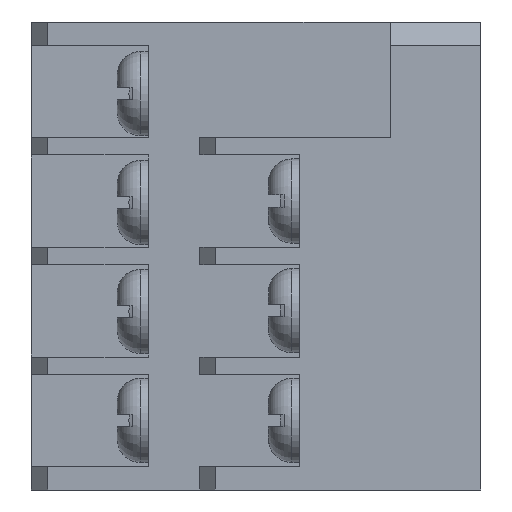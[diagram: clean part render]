
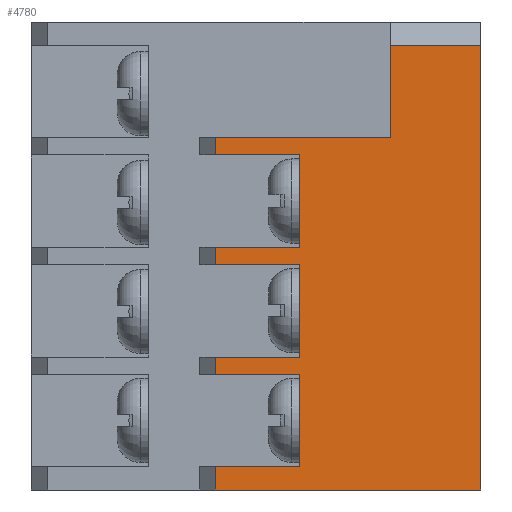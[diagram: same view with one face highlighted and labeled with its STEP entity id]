
A CAD part, left-side view. The second image highlights one B-rep face of the part: STEP entity #4780.
In plain terms, the highlighted planar face has unit normal (-1, 0, 0).
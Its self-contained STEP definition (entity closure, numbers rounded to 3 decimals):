
#23 = LINE ( 'NONE', #20725, #6328 ) ;
#133 = VECTOR ( 'NONE', #2885, 1000. ) ;
#676 = EDGE_CURVE ( 'NONE', #7374, #15625, #12981, .T. ) ;
#690 = CARTESIAN_POINT ( 'NONE',  ( -33.75, 10.6, 14.45 ) ) ;
#714 = CARTESIAN_POINT ( 'NONE',  ( -33.75, 17., 21.475 ) ) ;
#906 = DIRECTION ( 'NONE',  ( 0., 1., 0. ) ) ;
#1057 = LINE ( 'NONE', #13924, #17328 ) ;
#1320 = EDGE_LOOP ( 'NONE', ( #18510, #7648, #3717, #16716, #13855, #5805, #15302, #7697, #3683, #8871, #4548, #8831, #9867, #12850, #3366, #10427, #14857, #5818 ) ) ;
#1396 = CARTESIAN_POINT ( 'NONE',  ( -33.75, 10.6, 21.475 ) ) ;
#1546 = LINE ( 'NONE', #14799, #8365 ) ;
#1563 = VECTOR ( 'NONE', #13494, 1000. ) ;
#2198 = CARTESIAN_POINT ( 'NONE',  ( -33.75, 17., 7.425 ) ) ;
#2408 = CARTESIAN_POINT ( 'NONE',  ( -33.75, 17., 0. ) ) ;
#2484 = VERTEX_POINT ( 'NONE', #2198 ) ;
#2722 = DIRECTION ( 'NONE',  ( 0., 0., -1. ) ) ;
#2804 = LINE ( 'NONE', #8586, #9096 ) ;
#2885 = DIRECTION ( 'NONE',  ( 0., 1., 0. ) ) ;
#3101 = CARTESIAN_POINT ( 'NONE',  ( -33.75, 10.6, 22.575 ) ) ;
#3337 = CARTESIAN_POINT ( 'NONE',  ( -33.75, 17., 14.45 ) ) ;
#3366 = ORIENTED_EDGE ( 'NONE', *, *, #10335, .F. ) ;
#3551 = DIRECTION ( 'NONE',  ( 1., 0., 0. ) ) ;
#3571 = EDGE_CURVE ( 'NONE', #16414, #2484, #5389, .T. ) ;
#3683 = ORIENTED_EDGE ( 'NONE', *, *, #21758, .T. ) ;
#3717 = ORIENTED_EDGE ( 'NONE', *, *, #18665, .T. ) ;
#3776 = VERTEX_POINT ( 'NONE', #4979 ) ;
#4031 = CARTESIAN_POINT ( 'NONE',  ( -33.75, 11.6, 14.455 ) ) ;
#4074 = LINE ( 'NONE', #3101, #133 ) ;
#4548 = ORIENTED_EDGE ( 'NONE', *, *, #12519, .F. ) ;
#4683 = LINE ( 'NONE', #690, #17548 ) ;
#4754 = DIRECTION ( 'NONE',  ( 0., 0., 1. ) ) ;
#4780 = ADVANCED_FACE ( 'NONE', ( #8758 ), #15389, .F. ) ;
#4931 = VERTEX_POINT ( 'NONE', #12056 ) ;
#4971 = VERTEX_POINT ( 'NONE', #13682 ) ;
#4979 = CARTESIAN_POINT ( 'NONE',  ( -33.75, 17., 15.55 ) ) ;
#5083 = VERTEX_POINT ( 'NONE', #19079 ) ;
#5389 = LINE ( 'NONE', #21348, #6969 ) ;
#5392 = VERTEX_POINT ( 'NONE', #5758 ) ;
#5426 = VECTOR ( 'NONE', #4754, 1000. ) ;
#5743 = DIRECTION ( 'NONE',  ( 0., 0., 1. ) ) ;
#5758 = CARTESIAN_POINT ( 'NONE',  ( -33.75, 11.6, 15.55 ) ) ;
#5805 = ORIENTED_EDGE ( 'NONE', *, *, #18343, .F. ) ;
#5818 = ORIENTED_EDGE ( 'NONE', *, *, #6531, .T. ) ;
#5977 = CARTESIAN_POINT ( 'NONE',  ( -33.75, 17., 8.525 ) ) ;
#6006 = VERTEX_POINT ( 'NONE', #9400 ) ;
#6328 = VECTOR ( 'NONE', #7549, 1000. ) ;
#6456 = CARTESIAN_POINT ( 'NONE',  ( -33.75, 11.6, 7.425 ) ) ;
#6525 = DIRECTION ( 'NONE',  ( 0., 1., 0. ) ) ;
#6531 = EDGE_CURVE ( 'NONE', #15625, #4971, #2804, .T. ) ;
#6660 = EDGE_CURVE ( 'NONE', #19114, #7374, #23, .T. ) ;
#6796 = CARTESIAN_POINT ( 'NONE',  ( -33.75, 17., 0. ) ) ;
#6969 = VECTOR ( 'NONE', #2722, 1000. ) ;
#7014 = LINE ( 'NONE', #6456, #5426 ) ;
#7018 = EDGE_CURVE ( 'NONE', #10275, #12463, #11901, .T. ) ;
#7052 = CARTESIAN_POINT ( 'NONE',  ( -33.75, 0., 30. ) ) ;
#7374 = VERTEX_POINT ( 'NONE', #14536 ) ;
#7460 = VERTEX_POINT ( 'NONE', #11857 ) ;
#7549 = DIRECTION ( 'NONE',  ( 0., 1., 0. ) ) ;
#7648 = ORIENTED_EDGE ( 'NONE', *, *, #14704, .T. ) ;
#7697 = ORIENTED_EDGE ( 'NONE', *, *, #8930, .T. ) ;
#7909 = VERTEX_POINT ( 'NONE', #14806 ) ;
#7951 = DIRECTION ( 'NONE',  ( 0., 0., -1. ) ) ;
#8365 = VECTOR ( 'NONE', #7951, 1000. ) ;
#8471 = CARTESIAN_POINT ( 'NONE',  ( -33.75, 11.6, 1.5 ) ) ;
#8565 = LINE ( 'NONE', #9139, #9925 ) ;
#8586 = CARTESIAN_POINT ( 'NONE',  ( -33.75, 0., 0. ) ) ;
#8758 = FACE_OUTER_BOUND ( 'NONE', #1320, .T. ) ;
#8831 = ORIENTED_EDGE ( 'NONE', *, *, #20539, .T. ) ;
#8871 = ORIENTED_EDGE ( 'NONE', *, *, #14080, .F. ) ;
#8930 = EDGE_CURVE ( 'NONE', #5392, #3776, #18868, .T. ) ;
#9024 = DIRECTION ( 'NONE',  ( 0., 0., -1. ) ) ;
#9096 = VECTOR ( 'NONE', #17260, 1000. ) ;
#9139 = CARTESIAN_POINT ( 'NONE',  ( -33.75, 0., 28.5 ) ) ;
#9400 = CARTESIAN_POINT ( 'NONE',  ( -33.75, 11.6, 14.45 ) ) ;
#9485 = LINE ( 'NONE', #3337, #1563 ) ;
#9867 = ORIENTED_EDGE ( 'NONE', *, *, #3571, .T. ) ;
#9925 = VECTOR ( 'NONE', #906, 1000. ) ;
#10183 = DIRECTION ( 'NONE',  ( 0., 1., 0. ) ) ;
#10275 = VERTEX_POINT ( 'NONE', #16073 ) ;
#10335 = EDGE_CURVE ( 'NONE', #19114, #5083, #7014, .T. ) ;
#10337 = CARTESIAN_POINT ( 'NONE',  ( -33.75, 17., 21.475 ) ) ;
#10427 = ORIENTED_EDGE ( 'NONE', *, *, #6660, .T. ) ;
#10477 = CARTESIAN_POINT ( 'NONE',  ( -33.75, 11.6, 8.525 ) ) ;
#11137 = VECTOR ( 'NONE', #18857, 1000. ) ;
#11695 = VECTOR ( 'NONE', #15772, 1000. ) ;
#11857 = CARTESIAN_POINT ( 'NONE',  ( -33.75, 0., 28.5 ) ) ;
#11901 = LINE ( 'NONE', #10337, #20265 ) ;
#12056 = CARTESIAN_POINT ( 'NONE',  ( -33.75, 11.6, 21.475 ) ) ;
#12183 = EDGE_CURVE ( 'NONE', #14297, #10275, #4074, .T. ) ;
#12463 = VERTEX_POINT ( 'NONE', #714 ) ;
#12519 = EDGE_CURVE ( 'NONE', #17066, #6006, #16682, .T. ) ;
#12850 = ORIENTED_EDGE ( 'NONE', *, *, #13728, .F. ) ;
#12981 = LINE ( 'NONE', #2408, #15059 ) ;
#13429 = VECTOR ( 'NONE', #6525, 1000. ) ;
#13494 = DIRECTION ( 'NONE',  ( 0., 0., -1. ) ) ;
#13682 = CARTESIAN_POINT ( 'NONE',  ( -33.75, 0., 0. ) ) ;
#13728 = EDGE_CURVE ( 'NONE', #5083, #2484, #21483, .T. ) ;
#13855 = ORIENTED_EDGE ( 'NONE', *, *, #7018, .T. ) ;
#13924 = CARTESIAN_POINT ( 'NONE',  ( -33.75, 11.6, 21.485 ) ) ;
#14080 = EDGE_CURVE ( 'NONE', #6006, #7909, #4683, .T. ) ;
#14237 = LINE ( 'NONE', #1396, #13429 ) ;
#14281 = CARTESIAN_POINT ( 'NONE',  ( -33.75, 10.6, 7.425 ) ) ;
#14297 = VERTEX_POINT ( 'NONE', #21005 ) ;
#14496 = VECTOR ( 'NONE', #18764, 1000. ) ;
#14536 = CARTESIAN_POINT ( 'NONE',  ( -33.75, 17., 1.5 ) ) ;
#14704 = EDGE_CURVE ( 'NONE', #7460, #15093, #8565, .T. ) ;
#14799 = CARTESIAN_POINT ( 'NONE',  ( -33.75, 0., 30. ) ) ;
#14806 = CARTESIAN_POINT ( 'NONE',  ( -33.75, 17., 14.45 ) ) ;
#14857 = ORIENTED_EDGE ( 'NONE', *, *, #676, .T. ) ;
#14968 = VECTOR ( 'NONE', #10183, 1000. ) ;
#15059 = VECTOR ( 'NONE', #9024, 1000. ) ;
#15093 = VERTEX_POINT ( 'NONE', #18502 ) ;
#15169 = DIRECTION ( 'NONE',  ( 0., 0., -1. ) ) ;
#15302 = ORIENTED_EDGE ( 'NONE', *, *, #19227, .F. ) ;
#15389 = PLANE ( 'NONE',  #16119 ) ;
#15625 = VERTEX_POINT ( 'NONE', #6796 ) ;
#15772 = DIRECTION ( 'NONE',  ( 0., 0., 1. ) ) ;
#16053 = LINE ( 'NONE', #17080, #14496 ) ;
#16073 = CARTESIAN_POINT ( 'NONE',  ( -33.75, 17., 22.575 ) ) ;
#16119 = AXIS2_PLACEMENT_3D ( 'NONE', #7052, #3551, #15169 ) ;
#16186 = DIRECTION ( 'NONE',  ( 0., 1., 0. ) ) ;
#16414 = VERTEX_POINT ( 'NONE', #5977 ) ;
#16682 = LINE ( 'NONE', #4031, #11695 ) ;
#16716 = ORIENTED_EDGE ( 'NONE', *, *, #12183, .T. ) ;
#16905 = CARTESIAN_POINT ( 'NONE',  ( -33.75, 10.6, 8.525 ) ) ;
#17010 = DIRECTION ( 'NONE',  ( 0., 0., -1. ) ) ;
#17026 = VECTOR ( 'NONE', #16186, 1000. ) ;
#17066 = VERTEX_POINT ( 'NONE', #10477 ) ;
#17080 = CARTESIAN_POINT ( 'NONE',  ( -33.75, 5.8, 22.575 ) ) ;
#17260 = DIRECTION ( 'NONE',  ( 0., -1., 0. ) ) ;
#17328 = VECTOR ( 'NONE', #5743, 1000. ) ;
#17548 = VECTOR ( 'NONE', #19172, 1000. ) ;
#18343 = EDGE_CURVE ( 'NONE', #4931, #12463, #14237, .T. ) ;
#18502 = CARTESIAN_POINT ( 'NONE',  ( -33.75, 5.8, 28.5 ) ) ;
#18510 = ORIENTED_EDGE ( 'NONE', *, *, #19456, .F. ) ;
#18665 = EDGE_CURVE ( 'NONE', #15093, #14297, #16053, .T. ) ;
#18764 = DIRECTION ( 'NONE',  ( 0., 0., -1. ) ) ;
#18857 = DIRECTION ( 'NONE',  ( 0., 1., 0. ) ) ;
#18868 = LINE ( 'NONE', #18874, #14968 ) ;
#18874 = CARTESIAN_POINT ( 'NONE',  ( -33.75, 10.6, 15.55 ) ) ;
#19079 = CARTESIAN_POINT ( 'NONE',  ( -33.75, 11.6, 7.425 ) ) ;
#19114 = VERTEX_POINT ( 'NONE', #8471 ) ;
#19172 = DIRECTION ( 'NONE',  ( 0., 1., 0. ) ) ;
#19227 = EDGE_CURVE ( 'NONE', #5392, #4931, #1057, .T. ) ;
#19456 = EDGE_CURVE ( 'NONE', #7460, #4971, #1546, .T. ) ;
#20011 = LINE ( 'NONE', #16905, #11137 ) ;
#20265 = VECTOR ( 'NONE', #17010, 1000. ) ;
#20539 = EDGE_CURVE ( 'NONE', #17066, #16414, #20011, .T. ) ;
#20725 = CARTESIAN_POINT ( 'NONE',  ( -33.75, 10.6, 1.5 ) ) ;
#21005 = CARTESIAN_POINT ( 'NONE',  ( -33.75, 5.8, 22.575 ) ) ;
#21348 = CARTESIAN_POINT ( 'NONE',  ( -33.75, 17., 7.425 ) ) ;
#21483 = LINE ( 'NONE', #14281, #17026 ) ;
#21758 = EDGE_CURVE ( 'NONE', #3776, #7909, #9485, .T. ) ;
